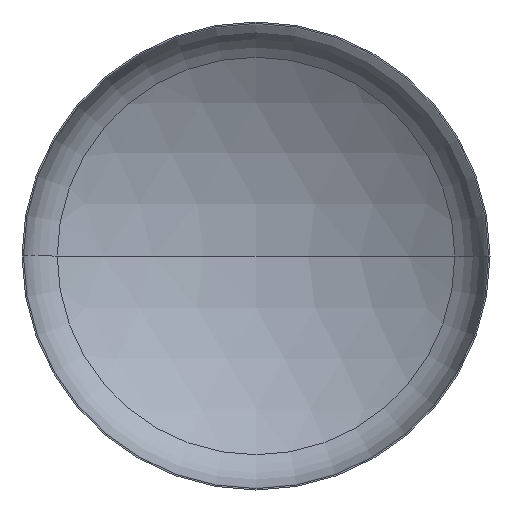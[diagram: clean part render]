
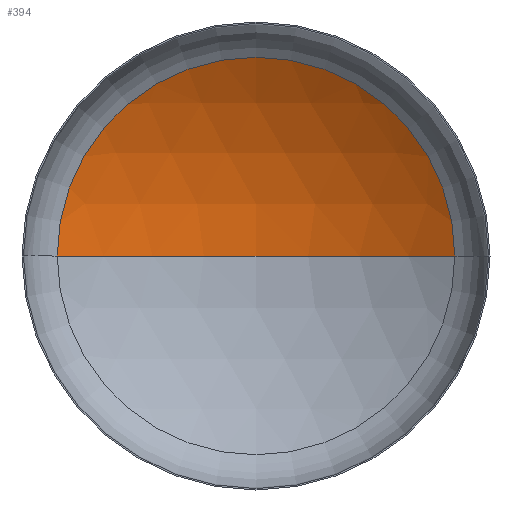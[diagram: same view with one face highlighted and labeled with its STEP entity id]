
A CAD part, front view. The second image highlights one B-rep face of the part: STEP entity #394.
In plain terms, the highlighted spherical face has radius 1040 mm.
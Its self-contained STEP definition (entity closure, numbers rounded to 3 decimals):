
#2 = DIRECTION ( 'NONE',  ( -1., 0., 0. ) ) ;
#3 = DIRECTION ( 'NONE',  ( 0., 0., -1. ) ) ;
#10 = CARTESIAN_POINT ( 'NONE',  ( 0., -691.817, 0. ) ) ;
#21 = VERTEX_POINT ( 'NONE', #261 ) ;
#43 = AXIS2_PLACEMENT_3D ( 'NONE', #181, #203, #200 ) ;
#44 = AXIS2_PLACEMENT_3D ( 'NONE', #10, #3, #2 ) ;
#46 = AXIS2_PLACEMENT_3D ( 'NONE', #168, #95, #316 ) ;
#47 = EDGE_LOOP ( 'NONE', ( #174, #263, #92 ) ) ;
#92 = ORIENTED_EDGE ( 'NONE', *, *, #105, .T. ) ;
#95 = DIRECTION ( 'NONE',  ( 0., -1., 0. ) ) ;
#105 = EDGE_CURVE ( 'NONE', #113, #115, #119, .T. ) ;
#107 = CIRCLE ( 'NONE', #44, 1040. ) ;
#113 = VERTEX_POINT ( 'NONE', #207 ) ;
#114 = EDGE_CURVE ( 'NONE', #21, #113, #107, .T. ) ;
#115 = VERTEX_POINT ( 'NONE', #164 ) ;
#119 = CIRCLE ( 'NONE', #46, 552.19 ) ;
#130 = EDGE_CURVE ( 'NONE', #21, #115, #214, .T. ) ;
#136 = DIRECTION ( 'NONE',  ( -1., 0., 0. ) ) ;
#138 = DIRECTION ( 'NONE',  ( 0., 0., -1. ) ) ;
#164 = CARTESIAN_POINT ( 'NONE',  ( -552.19, 189.48, 0. ) ) ;
#168 = CARTESIAN_POINT ( 'NONE',  ( 0., 189.48, 0. ) ) ;
#174 = ORIENTED_EDGE ( 'NONE', *, *, #130, .F. ) ;
#181 = CARTESIAN_POINT ( 'NONE',  ( 0., -691.817, 0. ) ) ;
#200 = DIRECTION ( 'NONE',  ( 1., 0., 0. ) ) ;
#203 = DIRECTION ( 'NONE',  ( 0., 0., 1. ) ) ;
#207 = CARTESIAN_POINT ( 'NONE',  ( 552.19, 189.48, 0. ) ) ;
#214 = CIRCLE ( 'NONE', #43, 1040. ) ;
#261 = CARTESIAN_POINT ( 'NONE',  ( 0., 348.183, 0. ) ) ;
#263 = ORIENTED_EDGE ( 'NONE', *, *, #114, .T. ) ;
#275 = AXIS2_PLACEMENT_3D ( 'NONE', #366, #138, #136 ) ;
#316 = DIRECTION ( 'NONE',  ( 1., 0., 0. ) ) ;
#366 = CARTESIAN_POINT ( 'NONE',  ( 0., -691.817, 0. ) ) ;
#394 = ADVANCED_FACE ( 'NONE', ( #411 ), #406, .F. ) ;
#406 = SPHERICAL_SURFACE ( 'NONE', #275, 1040. ) ;
#411 = FACE_OUTER_BOUND ( 'NONE', #47, .T. ) ;
